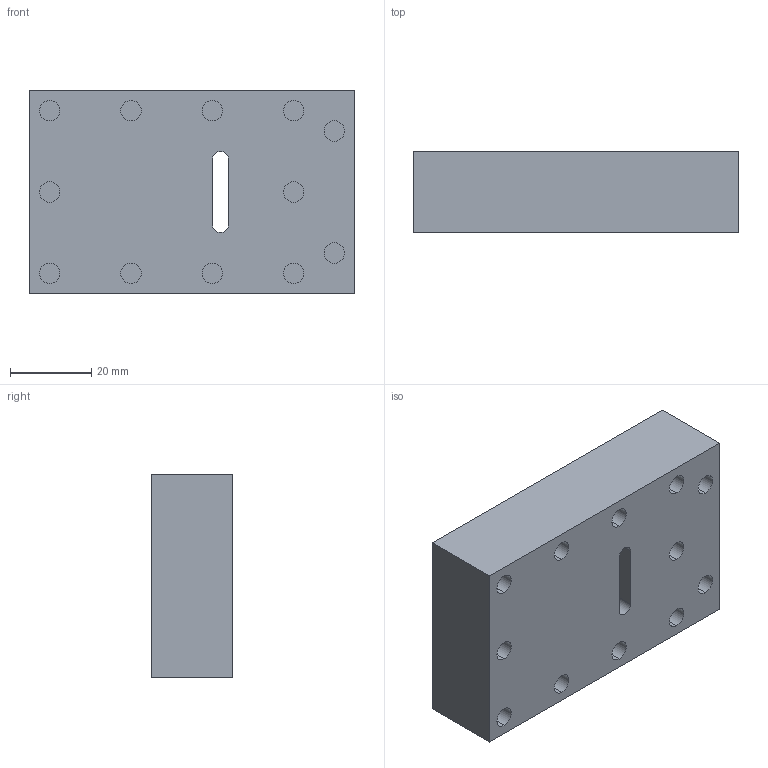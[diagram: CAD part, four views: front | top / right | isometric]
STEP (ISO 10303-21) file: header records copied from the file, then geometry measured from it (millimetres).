
FILE_DESCRIPTION (( 'STEP AP214' ), '1' );
FILE_NAME ('CESV-M.STEP', '2019-05-17T11:35:44', ( '' ), ( '' ), 'SwSTEP 2.0', 'SolidWorks 2018', '' );
FILE_SCHEMA (( 'AUTOMOTIVE_DESIGN' ));
Length unit declared in the file: millimetre
Products named in the file (1): CESV-M
Bounding box: 80 x 20 x 50 mm (x, y, z)
Volume: 59741.9 mm3; surface area: 18554.6 mm2
Topology: 1 solids, 1 shells, 93 faces, 195 edges, 130 vertices
Faces by surface type: cylinder 55, plane 38
Entity records: 3582 total; most frequent: DIRECTION 493, CARTESIAN_POINT 419, ORIENTED_EDGE 390, AXIS2_PLACEMENT_3D 204, EDGE_CURVE 195, VERTEX_POINT 130, EDGE_LOOP 123, CIRCLE 110
